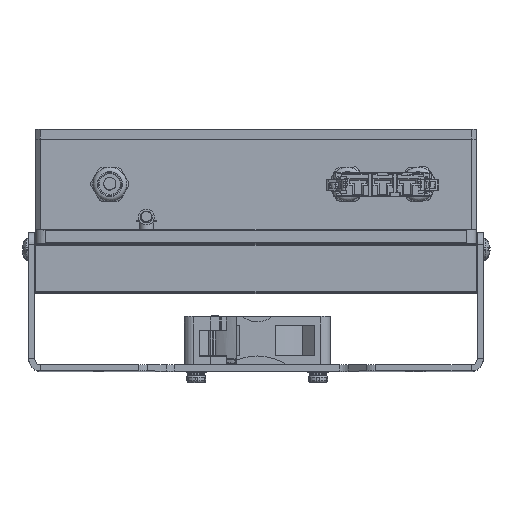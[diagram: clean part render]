
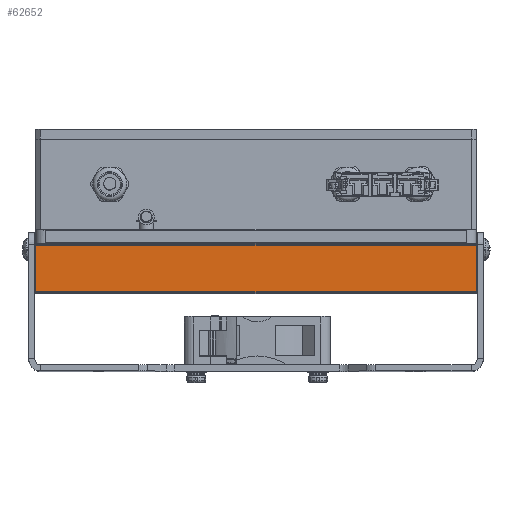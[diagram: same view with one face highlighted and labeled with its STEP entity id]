
A CAD part, top view. The second image highlights one B-rep face of the part: STEP entity #62652.
In plain terms, the highlighted planar face has unit normal (0, 0, 1).
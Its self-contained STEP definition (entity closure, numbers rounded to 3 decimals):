
#4545=LINE('',#83860,#10332);
#4849=LINE('',#85661,#10636);
#9253=LINE('',#104247,#15040);
#9254=LINE('',#104249,#15041);
#10332=VECTOR('',#69118,10.);
#10636=VECTOR('',#70102,10.);
#15040=VECTOR('',#78918,10.);
#15041=VECTOR('',#78921,10.);
#20037=FACE_OUTER_BOUND('',#23573,.T.);
#23573=EDGE_LOOP('',(#54499,#54500,#54501,#54502));
#26555=VERTEX_POINT('',#83857);
#26556=VERTEX_POINT('',#83859);
#27115=VERTEX_POINT('',#85658);
#27116=VERTEX_POINT('',#85660);
#32533=EDGE_CURVE('',#26555,#26556,#4545,.T.);
#33163=EDGE_CURVE('',#27115,#27116,#4849,.T.);
#39160=EDGE_CURVE('',#27115,#26556,#9253,.T.);
#39161=EDGE_CURVE('',#27116,#26555,#9254,.T.);
#54499=ORIENTED_EDGE('',*,*,#33163,.F.);
#54500=ORIENTED_EDGE('',*,*,#39160,.T.);
#54501=ORIENTED_EDGE('',*,*,#32533,.F.);
#54502=ORIENTED_EDGE('',*,*,#39161,.F.);
#59865=PLANE('',#66557);
#62652=ADVANCED_FACE('',(#20037),#59865,.T.);
#66557=AXIS2_PLACEMENT_3D('',#104248,#78919,#78920);
#69118=DIRECTION('',(0.,-1.,0.));
#70102=DIRECTION('',(0.,1.,0.));
#78918=DIRECTION('',(1.,0.,0.));
#78919=DIRECTION('center_axis',(0.,0.,
1.));
#78920=DIRECTION('ref_axis',(0.,-1.,0.));
#78921=DIRECTION('',(1.,0.,0.));
#83857=CARTESIAN_POINT('',(-56.543,-6.5,-86.929));
#83859=CARTESIAN_POINT('',(-56.543,-25.5,-86.929));
#83860=CARTESIAN_POINT('',(-56.543,-25.5,-86.929));
#85658=CARTESIAN_POINT('',(-237.543,-25.5,-86.929));
#85660=CARTESIAN_POINT('',(-237.543,-6.5,-86.929));
#85661=CARTESIAN_POINT('',(-237.543,-25.5,-86.929));
#104247=CARTESIAN_POINT('',(-237.543,-25.5,-86.929));
#104248=CARTESIAN_POINT('Origin',(-237.543,-6.5,-86.929));
#104249=CARTESIAN_POINT('',(-237.543,-6.5,-86.929));
